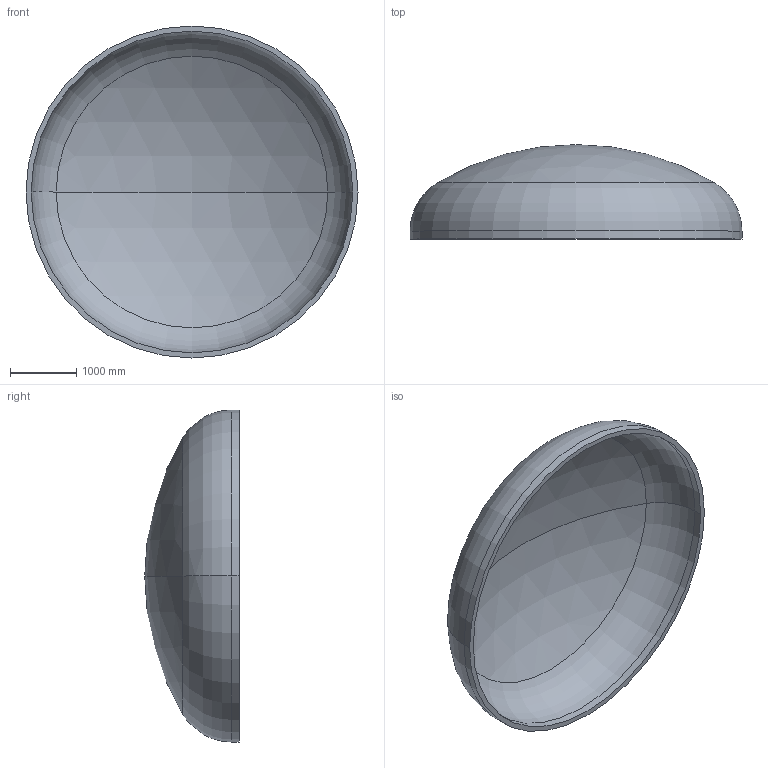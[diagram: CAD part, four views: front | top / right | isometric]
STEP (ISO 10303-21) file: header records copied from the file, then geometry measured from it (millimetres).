
FILE_DESCRIPTION (( 'STEP AP203' ), '1' );
FILE_NAME ('DIN 28013 Korbbogenform_-_Boden DIN 28013 - 5000 x 120 - I - s=78.step', '2016-07-02T00:46:45', ( '' ), ( '' ), 'SwSTEP 2.0', 'SolidWorks 2013', '' );
FILE_SCHEMA (( 'CONFIG_CONTROL_DESIGN' ));
Length unit declared in the file: millimetre
Products named in the file (1): DIN 28013 Korbbogenform_-_Boden DIN 28013 - 5000 x 120 - I - s=78
Bounding box: 5000 x 1422.43 x 5000 mm (x, y, z)
Volume: 2222637379.9 mm3; surface area: 58209531.2 mm2
Topology: 1 solids, 1 shells, 13 faces, 24 edges, 14 vertices
Faces by surface type: torus 4, cylinder 4, sphere 4, plane 1
Entity records: 407 total; most frequent: DIRECTION 72, CARTESIAN_POINT 52, ORIENTED_EDGE 48, AXIS2_PLACEMENT_3D 34, EDGE_CURVE 24, CIRCLE 20, EDGE_LOOP 14, VERTEX_POINT 14
